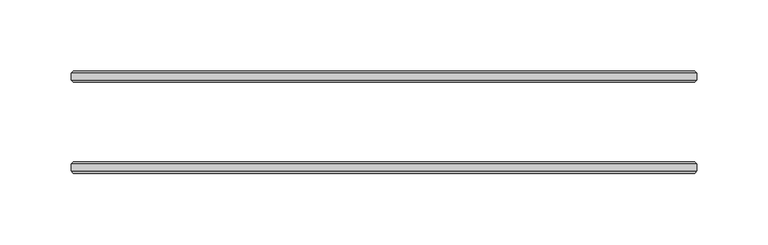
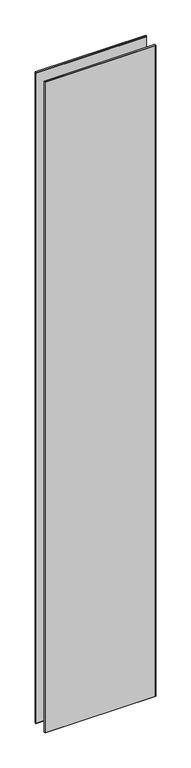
"""IFC4 building model written with IfcOpenShell, lengths in millimetres: plate geometry, 3-AMG-2-Панель двойной витраж 8, 10 : Смещение 32 Толщина 8mm."""

from ifc_helpers import new_model, si_unit, origin, place, context, project, spatial, faceted_brep, source, transform, mapped, element, save


def plate_1867f2ba(model_context):
    return source(origin(), model_context, "Body", "Brep", [
        faceted_brep([(220.0, 34.4961653, 2722.8), (-220.0, 34.4961653, 2722.8), (-220.0, 29.5038347, 2722.8), (220.0, 29.5038347, 2722.8), (220.0, 29.4960578, -7.0), (-220.0, 29.4960578, -7.0), (-220.0, 34.4961653, -7.0), (220.0, 34.4961653, -7.0), (-218.4961653, 28.0, 2721.2961653), (-218.4961653, 28.0, -5.5039422), (218.4961653, 28.0, -5.5039422), (218.4961653, 28.0, 2721.2961653), (218.4961653, 36.0, 2721.2961653), (218.4961653, 36.0, -5.4961653), (-218.4961653, 36.0, -5.4961653), (-218.4961653, 36.0, 2721.2961653)], [[[0, 1, 2, 3]], [[4, 5, 6, 7]], [[8, 9, 10, 11]], [[1, 6, 5, 2]], [[12, 13, 14, 15]], [[3, 4, 7, 0]], [[3, 11, 10, 4]], [[7, 13, 12, 0]], [[0, 12, 15, 1]], [[2, 8, 11, 3]], [[5, 9, 8, 2]], [[1, 15, 14, 6]], [[6, 14, 13, 7]], [[4, 10, 9, 5]]]),
        faceted_brep([(220.0, -29.5038347, 2722.8), (-220.0, -29.5038347, 2722.8), (-220.0, -34.4961653, 2722.8), (220.0, -34.4961653, 2722.8), (220.0, -34.5039422, -7.0), (-220.0, -34.5039422, -7.0), (-220.0, -29.5038347, -7.0), (220.0, -29.5038347, -7.0), (-218.4961653, -36.0, 2721.2961653), (-218.4961653, -36.0, -5.5039422), (218.4961653, -36.0, -5.5039422), (218.4961653, -36.0, 2721.2961653), (218.4961653, -28.0, 2721.2961653), (218.4961653, -28.0, -5.4961653), (-218.4961653, -28.0, -5.4961653), (-218.4961653, -28.0, 2721.2961653)], [[[0, 1, 2, 3]], [[4, 5, 6, 7]], [[8, 9, 10, 11]], [[1, 6, 5, 2]], [[12, 13, 14, 15]], [[3, 4, 7, 0]], [[3, 11, 10, 4]], [[7, 13, 12, 0]], [[5, 9, 8, 2]], [[1, 15, 14, 6]], [[0, 12, 15, 1]], [[2, 8, 11, 3]], [[6, 14, 13, 7]], [[4, 10, 9, 5]]]),
    ])


if __name__ == "__main__":
    model = new_model("IFC4")
    model_context = context("Model", 3, world=origin())
    ifc_project = project(units=[si_unit("LENGTHUNIT", "METRE", prefix="MILLI")], contexts=[model_context])
    site = spatial("IfcSite", under=ifc_project)
    building = spatial("IfcBuilding", under=site)
    placement = place(None, origin())
    plate_shape = plate_1867f2ba(model_context)
    element("IfcPlate", 1, ObjectType="3-AMG-2-Панель двойной витраж 8, 10 : Смещение 32 Толщина 8mm", at=placement, inside=building, context=model_context, shape_type="MappedRepresentation", body=[
        mapped(plate_shape, transform((0.0, 0.0, 0.0), x_axis=(1.0, 0.0, 0.0), y_axis=(0.0, 1.0, 0.0), z_axis=(0.0, 0.0, 1.0))),
    ])
    save(model, "model.ifc")
